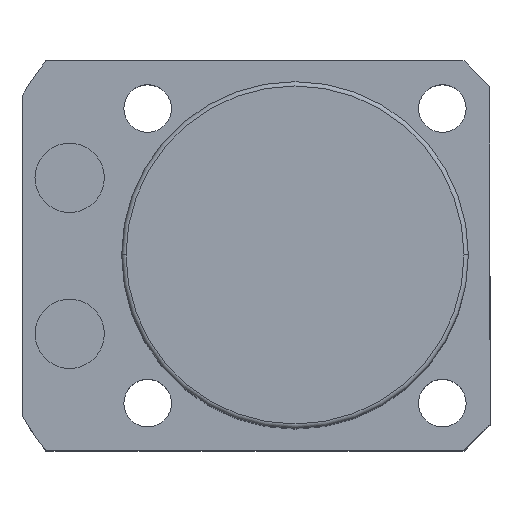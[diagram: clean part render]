
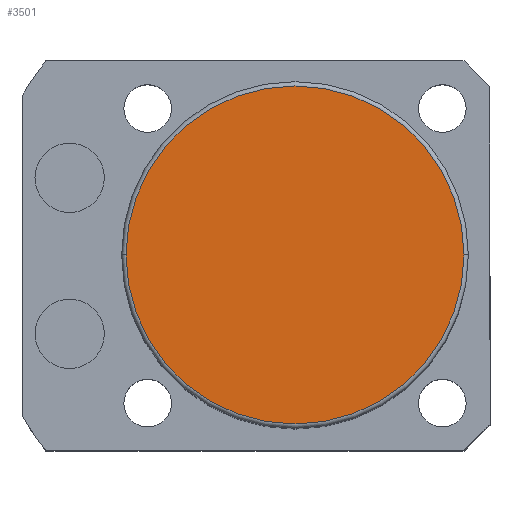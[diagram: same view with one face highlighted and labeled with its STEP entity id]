
A CAD part, top view. The second image highlights one B-rep face of the part: STEP entity #3501.
In plain terms, the highlighted planar face has unit normal (0, 0, 1).
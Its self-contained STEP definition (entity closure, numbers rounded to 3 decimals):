
#40 = CARTESIAN_POINT ( 'NONE',  ( 0., 0., 68.5 ) ) ;
#86 = PLANE ( 'NONE',  #2812 ) ;
#118 = CIRCLE ( 'NONE', #2355, 19.5 ) ;
#135 = FACE_OUTER_BOUND ( 'NONE', #4435, .T. ) ;
#174 = EDGE_CURVE ( 'NONE', #2289, #2500, #118, .T. ) ;
#365 = EDGE_CURVE ( 'NONE', #2500, #2289, #3886, .T. ) ;
#630 = DIRECTION ( 'NONE',  ( 0., 0., 1. ) ) ;
#900 = DIRECTION ( 'NONE',  ( 0., 0., 1. ) ) ;
#942 = DIRECTION ( 'NONE',  ( 1., 0., 0. ) ) ;
#1577 = ORIENTED_EDGE ( 'NONE', *, *, #365, .T. ) ;
#1700 = DIRECTION ( 'NONE',  ( 1., 0., 0. ) ) ;
#2029 = ORIENTED_EDGE ( 'NONE', *, *, #174, .T. ) ;
#2289 = VERTEX_POINT ( 'NONE', #3903 ) ;
#2355 = AXIS2_PLACEMENT_3D ( 'NONE', #40, #2911, #1700 ) ;
#2463 = CARTESIAN_POINT ( 'NONE',  ( 0., 0., 68.5 ) ) ;
#2500 = VERTEX_POINT ( 'NONE', #3308 ) ;
#2519 = AXIS2_PLACEMENT_3D ( 'NONE', #3972, #630, #3118 ) ;
#2812 = AXIS2_PLACEMENT_3D ( 'NONE', #2463, #900, #942 ) ;
#2911 = DIRECTION ( 'NONE',  ( 0., 0., 1. ) ) ;
#3118 = DIRECTION ( 'NONE',  ( 1., 0., 0. ) ) ;
#3308 = CARTESIAN_POINT ( 'NONE',  ( 19.5, 0., 68.5 ) ) ;
#3501 = ADVANCED_FACE ( 'NONE', ( #135 ), #86, .T. ) ;
#3886 = CIRCLE ( 'NONE', #2519, 19.5 ) ;
#3903 = CARTESIAN_POINT ( 'NONE',  ( -19.5, 0., 68.5 ) ) ;
#3972 = CARTESIAN_POINT ( 'NONE',  ( 0., 0., 68.5 ) ) ;
#4435 = EDGE_LOOP ( 'NONE', ( #1577, #2029 ) ) ;
